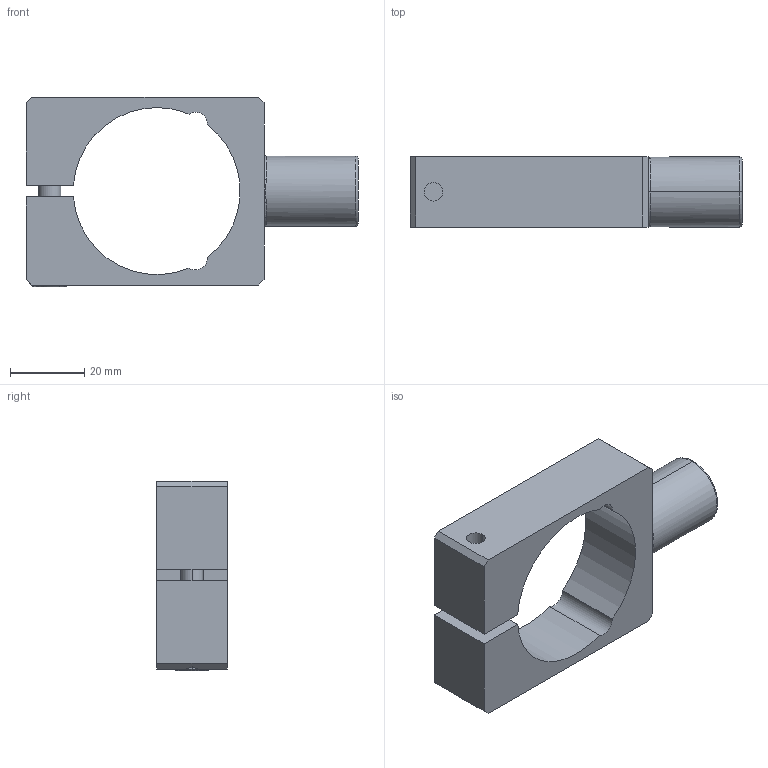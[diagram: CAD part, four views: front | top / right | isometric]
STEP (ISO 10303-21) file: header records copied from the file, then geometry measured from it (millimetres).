
FILE_DESCRIPTION (( 'STEP AP214' ), '1' );
FILE_NAME ('RTI-NIP-20.STEP', '2013-10-22T14:22:17', ( 'user' ), ( '' ), 'SwSTEP 2.0', 'SolidWorks 2009', '' );
FILE_SCHEMA (( 'AUTOMOTIVE_DESIGN' ));
Length unit declared in the file: inch
Products named in the file (4): RTI-PNM-45; M6 WASHER; M6 S.H.C.S._M6x40mm; RTI-NIP-20
Assembly tree (3 placements, depth 2):
  RTI-NIP-20
    M6 WASHER
    RTI-PNM-45
    M6 S.H.C.S._M6x40mm
Bounding box: 89.71 x 19.05 x 51.3 mm (x, y, z)
Volume: 37770.8 mm3; surface area: 14296.2 mm2
Topology: 3 solids, 3 shells, 346 faces, 889 edges, 589 vertices
Faces by surface type: plane 226, bspline 88, cylinder 23, torus 5, cone 4
Entity records: 19451 total; most frequent: CARTESIAN_POINT 7850, ORIENTED_EDGE 1778, DIRECTION 1305, EDGE_CURVE 889, LINE 649, VECTOR 649, VERTEX_POINT 589, EDGE_LOOP 392
